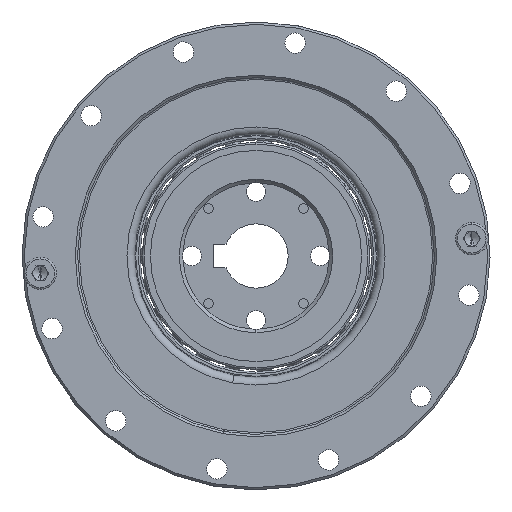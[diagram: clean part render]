
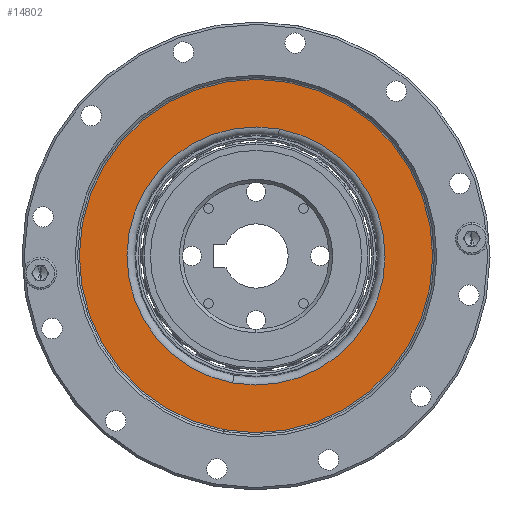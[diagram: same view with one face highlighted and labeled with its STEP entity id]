
A CAD part, left-side view. The second image highlights one B-rep face of the part: STEP entity #14802.
In plain terms, the highlighted planar face has unit normal (-1, 0, 0).
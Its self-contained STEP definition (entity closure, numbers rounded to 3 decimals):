
#476 = AXIS2_PLACEMENT_3D ( 'NONE', #3367, #16250, #5243 ) ;
#1365 = VERTEX_POINT ( 'NONE', #2022 ) ;
#1574 = DIRECTION ( 'NONE',  ( 0., 0., 1. ) ) ;
#2022 = CARTESIAN_POINT ( 'NONE',  ( 13.564, 0., 30.2 ) ) ;
#2701 = ORIENTED_EDGE ( 'NONE', *, *, #7514, .F. ) ;
#2857 = DIRECTION ( 'NONE',  ( 0., 0., -1. ) ) ;
#3053 = EDGE_LOOP ( 'NONE', ( #2701, #22566 ) ) ;
#3367 = CARTESIAN_POINT ( 'NONE',  ( 13.564, 0., 0. ) ) ;
#4641 = CARTESIAN_POINT ( 'NONE',  ( 13.564, 30.2, 0. ) ) ;
#5099 = VERTEX_POINT ( 'NONE', #9171 ) ;
#5180 = AXIS2_PLACEMENT_3D ( 'NONE', #23696, #12636, #1574 ) ;
#5243 = DIRECTION ( 'NONE',  ( 0., 0., 1. ) ) ;
#7514 = EDGE_CURVE ( 'NONE', #12814, #5099, #16720, .T. ) ;
#7814 = EDGE_CURVE ( 'NONE', #5099, #12814, #17010, .T. ) ;
#8200 = DIRECTION ( 'NONE',  ( -1., 0., 0. ) ) ;
#9051 = DIRECTION ( 'NONE',  ( -1., 0., 0. ) ) ;
#9171 = CARTESIAN_POINT ( 'NONE',  ( 13.564, 0., -22.061 ) ) ;
#9261 = VERTEX_POINT ( 'NONE', #13055 ) ;
#11319 = FACE_BOUND ( 'NONE', #3053, .T. ) ;
#11456 = ORIENTED_EDGE ( 'NONE', *, *, #17541, .T. ) ;
#12636 = DIRECTION ( 'NONE',  ( -1., 0., 0. ) ) ;
#12814 = VERTEX_POINT ( 'NONE', #21215 ) ;
#12981 = EDGE_CURVE ( 'NONE', #9261, #1365, #13723, .T. ) ;
#13055 = CARTESIAN_POINT ( 'NONE',  ( 13.564, 0., -30.2 ) ) ;
#13164 = ORIENTED_EDGE ( 'NONE', *, *, #12981, .T. ) ;
#13723 = CIRCLE ( 'NONE', #5180, 30.2 ) ;
#13895 = DIRECTION ( 'NONE',  ( 1., 0., 0. ) ) ;
#14802 = ADVANCED_FACE ( 'NONE', ( #11319, #16226 ), #21232, .F. ) ;
#15072 = EDGE_LOOP ( 'NONE', ( #11456, #13164 ) ) ;
#15564 = AXIS2_PLACEMENT_3D ( 'NONE', #4641, #13895, #2857 ) ;
#16226 = FACE_OUTER_BOUND ( 'NONE', #15072, .T. ) ;
#16250 = DIRECTION ( 'NONE',  ( -1., 0., 0. ) ) ;
#16454 = CIRCLE ( 'NONE', #476, 30.2 ) ;
#16720 = CIRCLE ( 'NONE', #18179, 22.061 ) ;
#17010 = CIRCLE ( 'NONE', #22683, 22.061 ) ;
#17541 = EDGE_CURVE ( 'NONE', #1365, #9261, #16454, .T. ) ;
#18179 = AXIS2_PLACEMENT_3D ( 'NONE', #19258, #8200, #21104 ) ;
#19258 = CARTESIAN_POINT ( 'NONE',  ( 13.564, 0., 0. ) ) ;
#20091 = CARTESIAN_POINT ( 'NONE',  ( 13.564, 0., 0. ) ) ;
#21104 = DIRECTION ( 'NONE',  ( 0., 0., 1. ) ) ;
#21215 = CARTESIAN_POINT ( 'NONE',  ( 13.564, 0., 22.061 ) ) ;
#21232 = PLANE ( 'NONE',  #15564 ) ;
#21956 = DIRECTION ( 'NONE',  ( 0., 0., 1. ) ) ;
#22566 = ORIENTED_EDGE ( 'NONE', *, *, #7814, .F. ) ;
#22683 = AXIS2_PLACEMENT_3D ( 'NONE', #20091, #9051, #21956 ) ;
#23696 = CARTESIAN_POINT ( 'NONE',  ( 13.564, 0., 0. ) ) ;
